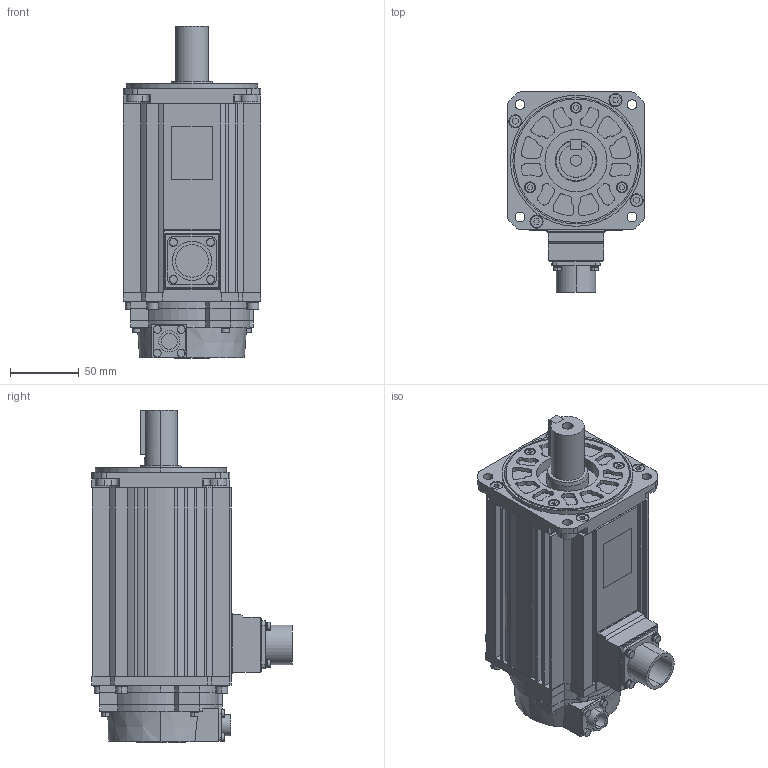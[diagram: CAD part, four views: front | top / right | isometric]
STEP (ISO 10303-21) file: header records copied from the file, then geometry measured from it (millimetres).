
FILE_DESCRIPTION (( 'STEP AP203' ), '1' );
FILE_NAME ('sgmsv_25__a61.STEP', '2009-09-22T00:17:16', ( 'T' ), ( 'T' ), 'SwSTEP 2.0', 'SolidWorks 2006052', '' );
FILE_SCHEMA (( 'CONFIG_CONTROL_DESIGN' ));
Length unit declared in the file: millimetre
Products named in the file (3): sgmsv_25__a61; sgmsv_25__a61_base; sgmsv_25__a61_key
Assembly tree (2 placements, depth 2):
  sgmsv_25__a61
    sgmsv_25__a61_key
    sgmsv_25__a61_base
Bounding box: 100 x 144.99 x 240.6 mm (x, y, z)
Volume: 1618260.4 mm3; surface area: 150278.9 mm2
Topology: 2 solids, 2 shells, 822 faces, 2109 edges, 1387 vertices
Faces by surface type: plane 459, cylinder 358, cone 5
Entity records: 25449 total; most frequent: DIRECTION 4535, CARTESIAN_POINT 4365, ORIENTED_EDGE 4218, EDGE_CURVE 2109, AXIS2_PLACEMENT_3D 1602, VERTEX_POINT 1387, VECTOR 1331, LINE 1331
